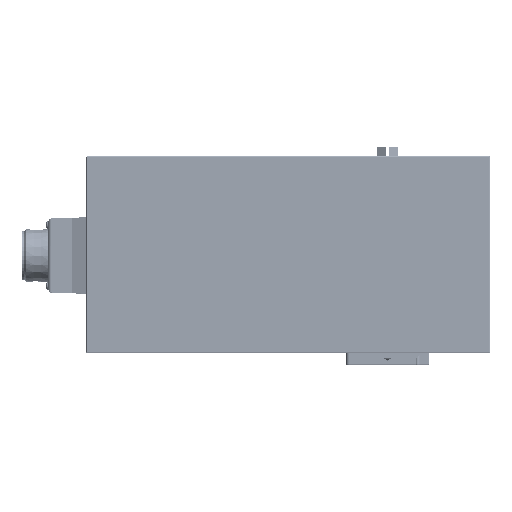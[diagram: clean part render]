
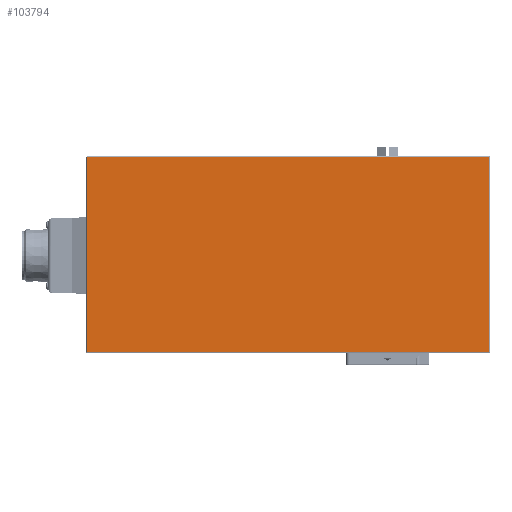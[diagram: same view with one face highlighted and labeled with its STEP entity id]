
A CAD part, top view. The second image highlights one B-rep face of the part: STEP entity #103794.
In plain terms, the highlighted planar face has unit normal (0, 0, 1).
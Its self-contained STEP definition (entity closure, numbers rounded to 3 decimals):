
#103755=CARTESIAN_POINT('',(-60.,62.5,568.5));
#103756=DIRECTION('',(0.,1.,0.));
#103757=DIRECTION('',(0.,-0.,1.));
#103758=AXIS2_PLACEMENT_3D('',#103755,#103757,#103756);
#103759=PLANE('',#103758);
#103760=CARTESIAN_POINT('',(-181.5,-59.,568.5));
#103761=VERTEX_POINT('',#103760);
#103762=CARTESIAN_POINT('',(61.5,-59.,568.5));
#103763=VERTEX_POINT('',#103762);
#103764=CARTESIAN_POINT('',(-181.5,-59.,568.5));
#103765=DIRECTION('',(1.,0.,0.));
#103766=VECTOR('',#103765,243.);
#103767=LINE('',#103764,#103766);
#103768=EDGE_CURVE('',#103761,#103763,#103767,.T.);
#103769=ORIENTED_EDGE('E7840',*,*,#103768,.T.);
#103770=CARTESIAN_POINT('',(61.5,59.,568.5));
#103771=VERTEX_POINT('',#103770);
#103772=CARTESIAN_POINT('',(61.5,-59.,568.5));
#103773=DIRECTION('',(0.,1.,0.));
#103774=VECTOR('',#103773,118.);
#103775=LINE('',#103772,#103774);
#103776=EDGE_CURVE('',#103763,#103771,#103775,.T.);
#103777=ORIENTED_EDGE('E7841',*,*,#103776,.T.);
#103778=CARTESIAN_POINT('',(-181.5,59.,568.5));
#103779=VERTEX_POINT('',#103778);
#103780=CARTESIAN_POINT('',(61.5,59.,568.5));
#103781=DIRECTION('',(-1.,0.,0.));
#103782=VECTOR('',#103781,243.);
#103783=LINE('',#103780,#103782);
#103784=EDGE_CURVE('',#103771,#103779,#103783,.T.);
#103785=ORIENTED_EDGE('E7842',*,*,#103784,.T.);
#103786=CARTESIAN_POINT('',(-181.5,59.,568.5));
#103787=DIRECTION('',(0.,-1.,0.));
#103788=VECTOR('',#103787,118.);
#103789=LINE('',#103786,#103788);
#103790=EDGE_CURVE('',#103779,#103761,#103789,.T.);
#103791=ORIENTED_EDGE('E7843',*,*,#103790,.T.);
#103792=EDGE_LOOP('',(#103769,#103777,#103785,#103791));
#103793=FACE_OUTER_BOUND('',#103792,.T.);
#103794=ADVANCED_FACE('F3042',(#103793),#103759,.T.);
